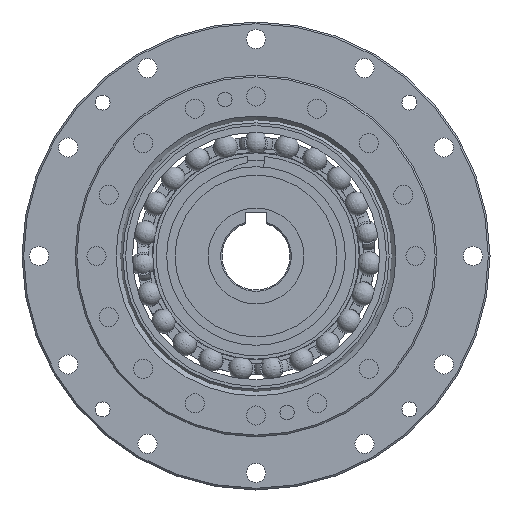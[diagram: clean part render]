
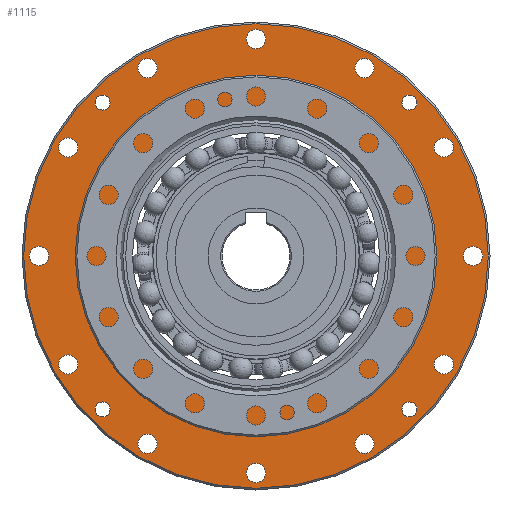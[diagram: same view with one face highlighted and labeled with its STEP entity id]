
A CAD part, left-side view. The second image highlights one B-rep face of the part: STEP entity #1115.
In plain terms, the highlighted planar face has unit normal (-1, 0, 0).
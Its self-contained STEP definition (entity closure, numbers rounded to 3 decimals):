
#1037=PLANE('',#5168);
#1115=ADVANCED_FACE('',(#1514,#1515,#1516,#1517,#1518,#1519,#1520,#1521,
#1522,#1523,#1524,#1525,#1526,#1527,#1528,#1529,#1530,#1531),#1037,.T.);
#1514=FACE_BOUND('',#1789,.T.);
#1515=FACE_BOUND('',#1790,.T.);
#1516=FACE_BOUND('',#1791,.T.);
#1517=FACE_BOUND('',#1792,.T.);
#1518=FACE_BOUND('',#1793,.T.);
#1519=FACE_BOUND('',#1794,.T.);
#1520=FACE_BOUND('',#1795,.T.);
#1521=FACE_BOUND('',#1796,.T.);
#1522=FACE_BOUND('',#1797,.T.);
#1523=FACE_BOUND('',#1798,.T.);
#1524=FACE_BOUND('',#1799,.T.);
#1525=FACE_BOUND('',#1800,.T.);
#1526=FACE_BOUND('',#1801,.T.);
#1527=FACE_BOUND('',#1802,.T.);
#1528=FACE_BOUND('',#1803,.T.);
#1529=FACE_BOUND('',#1804,.T.);
#1530=FACE_BOUND('',#1805,.T.);
#1531=FACE_BOUND('',#1806,.T.);
#1789=EDGE_LOOP('',(#2226));
#1790=EDGE_LOOP('',(#2227));
#1791=EDGE_LOOP('',(#2228));
#1792=EDGE_LOOP('',(#2229));
#1793=EDGE_LOOP('',(#2230));
#1794=EDGE_LOOP('',(#2231));
#1795=EDGE_LOOP('',(#2232));
#1796=EDGE_LOOP('',(#2233));
#1797=EDGE_LOOP('',(#2234));
#1798=EDGE_LOOP('',(#2235));
#1799=EDGE_LOOP('',(#2236));
#1800=EDGE_LOOP('',(#2237));
#1801=EDGE_LOOP('',(#2238));
#1802=EDGE_LOOP('',(#2239));
#1803=EDGE_LOOP('',(#2240));
#1804=EDGE_LOOP('',(#2241));
#1805=EDGE_LOOP('',(#2242));
#1806=EDGE_LOOP('',(#2243));
#2226=ORIENTED_EDGE('',*,*,#4082,.T.);
#2227=ORIENTED_EDGE('',*,*,#4083,.T.);
#2228=ORIENTED_EDGE('',*,*,#4084,.T.);
#2229=ORIENTED_EDGE('',*,*,#4085,.T.);
#2230=ORIENTED_EDGE('',*,*,#4086,.T.);
#2231=ORIENTED_EDGE('',*,*,#4087,.T.);
#2232=ORIENTED_EDGE('',*,*,#4088,.T.);
#2233=ORIENTED_EDGE('',*,*,#4089,.T.);
#2234=ORIENTED_EDGE('',*,*,#4090,.T.);
#2235=ORIENTED_EDGE('',*,*,#4091,.T.);
#2236=ORIENTED_EDGE('',*,*,#4092,.T.);
#2237=ORIENTED_EDGE('',*,*,#4093,.T.);
#2238=ORIENTED_EDGE('',*,*,#4094,.T.);
#2239=ORIENTED_EDGE('',*,*,#4095,.T.);
#2240=ORIENTED_EDGE('',*,*,#4096,.T.);
#2241=ORIENTED_EDGE('',*,*,#4097,.T.);
#2242=ORIENTED_EDGE('',*,*,#4098,.T.);
#2243=ORIENTED_EDGE('',*,*,#4099,.T.);
#3570=VERTEX_POINT('',#7064);
#3571=VERTEX_POINT('',#7066);
#3572=VERTEX_POINT('',#7068);
#3573=VERTEX_POINT('',#7070);
#3574=VERTEX_POINT('',#7072);
#3575=VERTEX_POINT('',#7074);
#3576=VERTEX_POINT('',#7076);
#3577=VERTEX_POINT('',#7078);
#3578=VERTEX_POINT('',#7080);
#3579=VERTEX_POINT('',#7082);
#3580=VERTEX_POINT('',#7084);
#3581=VERTEX_POINT('',#7086);
#3582=VERTEX_POINT('',#7088);
#3583=VERTEX_POINT('',#7090);
#3584=VERTEX_POINT('',#7092);
#3585=VERTEX_POINT('',#7094);
#3586=VERTEX_POINT('',#7096);
#3587=VERTEX_POINT('',#7098);
#4082=EDGE_CURVE('',#3570,#3570,#4841,.T.);
#4083=EDGE_CURVE('',#3571,#3571,#4842,.T.);
#4084=EDGE_CURVE('',#3572,#3572,#4843,.T.);
#4085=EDGE_CURVE('',#3573,#3573,#4844,.T.);
#4086=EDGE_CURVE('',#3574,#3574,#4845,.T.);
#4087=EDGE_CURVE('',#3575,#3575,#4846,.T.);
#4088=EDGE_CURVE('',#3576,#3576,#4847,.T.);
#4089=EDGE_CURVE('',#3577,#3577,#4848,.T.);
#4090=EDGE_CURVE('',#3578,#3578,#4849,.T.);
#4091=EDGE_CURVE('',#3579,#3579,#4850,.T.);
#4092=EDGE_CURVE('',#3580,#3580,#4851,.T.);
#4093=EDGE_CURVE('',#3581,#3581,#4852,.T.);
#4094=EDGE_CURVE('',#3582,#3582,#4853,.T.);
#4095=EDGE_CURVE('',#3583,#3583,#4854,.T.);
#4096=EDGE_CURVE('',#3584,#3584,#4855,.T.);
#4097=EDGE_CURVE('',#3585,#3585,#4856,.T.);
#4098=EDGE_CURVE('',#3586,#3586,#4857,.T.);
#4099=EDGE_CURVE('',#3587,#3587,#4858,.T.);
#4841=CIRCLE('',#5150,32.25);
#4842=CIRCLE('',#5151,1.75);
#4843=CIRCLE('',#5152,1.75);
#4844=CIRCLE('',#5153,1.75);
#4845=CIRCLE('',#5154,1.75);
#4846=CIRCLE('',#5155,2.25);
#4847=CIRCLE('',#5156,2.25);
#4848=CIRCLE('',#5157,2.25);
#4849=CIRCLE('',#5158,2.25);
#4850=CIRCLE('',#5159,2.25);
#4851=CIRCLE('',#5160,2.25);
#4852=CIRCLE('',#5161,2.25);
#4853=CIRCLE('',#5162,2.25);
#4854=CIRCLE('',#5163,2.25);
#4855=CIRCLE('',#5164,2.25);
#4856=CIRCLE('',#5165,2.25);
#4857=CIRCLE('',#5166,2.25);
#4858=CIRCLE('',#5167,54.6);
#5150=AXIS2_PLACEMENT_3D('',#7063,#5762,#5763);
#5151=AXIS2_PLACEMENT_3D('',#7065,#5764,#5765);
#5152=AXIS2_PLACEMENT_3D('',#7067,#5766,#5767);
#5153=AXIS2_PLACEMENT_3D('',#7069,#5768,#5769);
#5154=AXIS2_PLACEMENT_3D('',#7071,#5770,#5771);
#5155=AXIS2_PLACEMENT_3D('',#7073,#5772,#5773);
#5156=AXIS2_PLACEMENT_3D('',#7075,#5774,#5775);
#5157=AXIS2_PLACEMENT_3D('',#7077,#5776,#5777);
#5158=AXIS2_PLACEMENT_3D('',#7079,#5778,#5779);
#5159=AXIS2_PLACEMENT_3D('',#7081,#5780,#5781);
#5160=AXIS2_PLACEMENT_3D('',#7083,#5782,#5783);
#5161=AXIS2_PLACEMENT_3D('',#7085,#5784,#5785);
#5162=AXIS2_PLACEMENT_3D('',#7087,#5786,#5787);
#5163=AXIS2_PLACEMENT_3D('',#7089,#5788,#5789);
#5164=AXIS2_PLACEMENT_3D('',#7091,#5790,#5791);
#5165=AXIS2_PLACEMENT_3D('',#7093,#5792,#5793);
#5166=AXIS2_PLACEMENT_3D('',#7095,#5794,#5795);
#5167=AXIS2_PLACEMENT_3D('',#7097,#5796,#5797);
#5168=AXIS2_PLACEMENT_3D('',#7099,#5798,#5799);
#5762=DIRECTION('',(1.,0.,0.));
#5763=DIRECTION('',(0.,-1.,0.));
#5764=DIRECTION('',(1.,0.,0.));
#5765=DIRECTION('',(0.,0.,1.));
#5766=DIRECTION('',(1.,0.,0.));
#5767=DIRECTION('',(0.,0.,1.));
#5768=DIRECTION('',(1.,0.,0.));
#5769=DIRECTION('',(0.,0.,1.));
#5770=DIRECTION('',(1.,0.,0.));
#5771=DIRECTION('',(0.,0.,1.));
#5772=DIRECTION('',(1.,0.,0.));
#5773=DIRECTION('',(0.,0.,1.));
#5774=DIRECTION('',(1.,0.,0.));
#5775=DIRECTION('',(0.,0.,1.));
#5776=DIRECTION('',(1.,0.,0.));
#5777=DIRECTION('',(0.,0.,1.));
#5778=DIRECTION('',(1.,0.,0.));
#5779=DIRECTION('',(0.,0.,1.));
#5780=DIRECTION('',(1.,0.,0.));
#5781=DIRECTION('',(0.,0.,1.));
#5782=DIRECTION('',(1.,0.,0.));
#5783=DIRECTION('',(0.,0.,1.));
#5784=DIRECTION('',(1.,0.,0.));
#5785=DIRECTION('',(0.,0.,1.));
#5786=DIRECTION('',(1.,0.,0.));
#5787=DIRECTION('',(0.,0.,1.));
#5788=DIRECTION('',(1.,0.,0.));
#5789=DIRECTION('',(0.,0.,1.));
#5790=DIRECTION('',(1.,0.,0.));
#5791=DIRECTION('',(0.,0.,1.));
#5792=DIRECTION('',(1.,0.,0.));
#5793=DIRECTION('',(0.,0.,1.));
#5794=DIRECTION('',(1.,0.,0.));
#5795=DIRECTION('',(0.,0.,1.));
#5796=DIRECTION('',(-1.,0.,0.));
#5797=DIRECTION('',(0.,0.,-1.));
#5798=DIRECTION('',(-1.,0.,0.));
#5799=DIRECTION('',(0.,0.,-1.));
#7063=CARTESIAN_POINT('',(31.1,0.,0.));
#7064=CARTESIAN_POINT('',(31.1,-32.25,0.));
#7065=CARTESIAN_POINT('',(31.1,-36.062,-36.062));
#7066=CARTESIAN_POINT('',(31.1,-36.062,-34.312));
#7067=CARTESIAN_POINT('',(31.1,36.062,-36.062));
#7068=CARTESIAN_POINT('',(31.1,36.062,-34.312));
#7069=CARTESIAN_POINT('',(31.1,36.062,36.062));
#7070=CARTESIAN_POINT('',(31.1,36.062,37.812));
#7071=CARTESIAN_POINT('',(31.1,-36.062,36.062));
#7072=CARTESIAN_POINT('',(31.1,-36.062,37.812));
#7073=CARTESIAN_POINT('',(31.1,-44.167,-25.5));
#7074=CARTESIAN_POINT('',(31.1,-44.167,-23.25));
#7075=CARTESIAN_POINT('',(31.1,-25.5,-44.167));
#7076=CARTESIAN_POINT('',(31.1,-25.5,-41.917));
#7077=CARTESIAN_POINT('',(31.1,0.,-51.));
#7078=CARTESIAN_POINT('',(31.1,0.,-48.75));
#7079=CARTESIAN_POINT('',(31.1,25.5,-44.167));
#7080=CARTESIAN_POINT('',(31.1,25.5,-41.917));
#7081=CARTESIAN_POINT('',(31.1,44.167,-25.5));
#7082=CARTESIAN_POINT('',(31.1,44.167,-23.25));
#7083=CARTESIAN_POINT('',(31.1,51.,0.));
#7084=CARTESIAN_POINT('',(31.1,51.,2.25));
#7085=CARTESIAN_POINT('',(31.1,44.167,25.5));
#7086=CARTESIAN_POINT('',(31.1,44.167,27.75));
#7087=CARTESIAN_POINT('',(31.1,25.5,44.167));
#7088=CARTESIAN_POINT('',(31.1,25.5,46.417));
#7089=CARTESIAN_POINT('',(31.1,0.,51.));
#7090=CARTESIAN_POINT('',(31.1,0.,53.25));
#7091=CARTESIAN_POINT('',(31.1,-25.5,44.167));
#7092=CARTESIAN_POINT('',(31.1,-25.5,46.417));
#7093=CARTESIAN_POINT('',(31.1,-44.167,25.5));
#7094=CARTESIAN_POINT('',(31.1,-44.167,27.75));
#7095=CARTESIAN_POINT('',(31.1,-51.,0.));
#7096=CARTESIAN_POINT('',(31.1,-51.,2.25));
#7097=CARTESIAN_POINT('',(31.1,0.,0.));
#7098=CARTESIAN_POINT('',(31.1,0.,-54.6));
#7099=CARTESIAN_POINT('',(31.1,-55.,0.));
